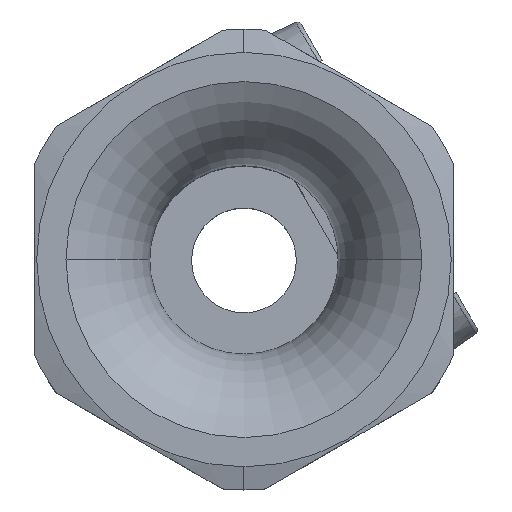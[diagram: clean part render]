
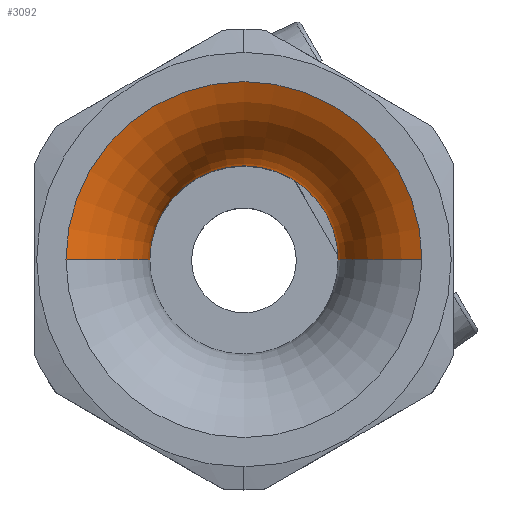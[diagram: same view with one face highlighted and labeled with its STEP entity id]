
A CAD part, top view. The second image highlights one B-rep face of the part: STEP entity #3092.
In plain terms, the highlighted toroidal (fillet/blend) face has major radius 11 mm and minor radius 6.5 mm.
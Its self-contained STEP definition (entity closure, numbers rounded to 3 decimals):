
#237 = AXIS2_PLACEMENT_3D ( 'NONE', #244, #455, #454 ) ;
#238 = CIRCLE ( 'NONE', #237, 4.5 ) ;
#239 = DIRECTION ( 'NONE',  ( -1., 0., 0. ) ) ;
#240 = DIRECTION ( 'NONE',  ( 0., 1., 0. ) ) ;
#241 = CARTESIAN_POINT ( 'NONE',  ( -11., 0., 13. ) ) ;
#242 = AXIS2_PLACEMENT_3D ( 'NONE', #241, #240, #239 ) ;
#243 = CIRCLE ( 'NONE', #242, 6.5 ) ;
#244 = CARTESIAN_POINT ( 'NONE',  ( 0., 0., 13. ) ) ;
#245 = CARTESIAN_POINT ( 'NONE',  ( -8.5, 0., 19. ) ) ;
#246 = CARTESIAN_POINT ( 'NONE',  ( 8.5, 0., 19. ) ) ;
#247 = DIRECTION ( 'NONE',  ( 1., 0., 0. ) ) ;
#248 = DIRECTION ( 'NONE',  ( 0., 0., 1. ) ) ;
#249 = CARTESIAN_POINT ( 'NONE',  ( 0., 0., 19. ) ) ;
#250 = AXIS2_PLACEMENT_3D ( 'NONE', #249, #248, #247 ) ;
#251 = CIRCLE ( 'NONE', #250, 8.5 ) ;
#252 = DIRECTION ( 'NONE',  ( 1., 0., 0. ) ) ;
#253 = DIRECTION ( 'NONE',  ( 0., 0., 1. ) ) ;
#254 = AXIS2_PLACEMENT_3D ( 'NONE', #256, #253, #252 ) ;
#255 = TOROIDAL_SURFACE ( 'NONE', #254, 11., 6.5 ) ;
#256 = CARTESIAN_POINT ( 'NONE',  ( 0., 0., 13. ) ) ;
#257 = FACE_OUTER_BOUND ( 'NONE', #3093, .T. ) ;
#454 = DIRECTION ( 'NONE',  ( 1., 0., 0. ) ) ;
#455 = DIRECTION ( 'NONE',  ( 0., 0., 1. ) ) ;
#469 = CARTESIAN_POINT ( 'NONE',  ( 4.5, 0., 13. ) ) ;
#475 = CARTESIAN_POINT ( 'NONE',  ( -4.5, 0., 13. ) ) ;
#683 = DIRECTION ( 'NONE',  ( 0., 0., -1. ) ) ;
#684 = DIRECTION ( 'NONE',  ( 0., -1., 0. ) ) ;
#685 = CARTESIAN_POINT ( 'NONE',  ( 11., 0., 13. ) ) ;
#686 = AXIS2_PLACEMENT_3D ( 'NONE', #685, #684, #683 ) ;
#687 = CIRCLE ( 'NONE', #686, 6.5 ) ;
#3077 = VERTEX_POINT ( 'NONE', #475 ) ;
#3080 = VERTEX_POINT ( 'NONE', #469 ) ;
#3092 = ADVANCED_FACE ( 'NONE', ( #257 ), #255, .T. ) ;
#3093 = EDGE_LOOP ( 'NONE', ( #3094, #3098, #3100, #3102 ) ) ;
#3094 = ORIENTED_EDGE ( 'NONE', *, *, #3095, .T. ) ;
#3095 = EDGE_CURVE ( 'NONE', #3096, #3097, #251, .T. ) ;
#3096 = VERTEX_POINT ( 'NONE', #246 ) ;
#3097 = VERTEX_POINT ( 'NONE', #245 ) ;
#3098 = ORIENTED_EDGE ( 'NONE', *, *, #3099, .T. ) ;
#3099 = EDGE_CURVE ( 'NONE', #3097, #3077, #243, .T. ) ;
#3100 = ORIENTED_EDGE ( 'NONE', *, *, #3101, .F. ) ;
#3101 = EDGE_CURVE ( 'NONE', #3080, #3077, #238, .T. ) ;
#3102 = ORIENTED_EDGE ( 'NONE', *, *, #3239, .F. ) ;
#3239 = EDGE_CURVE ( 'NONE', #3096, #3080, #687, .T. ) ;
